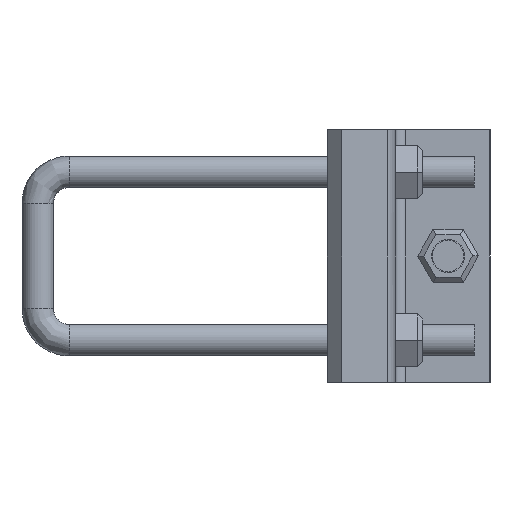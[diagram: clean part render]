
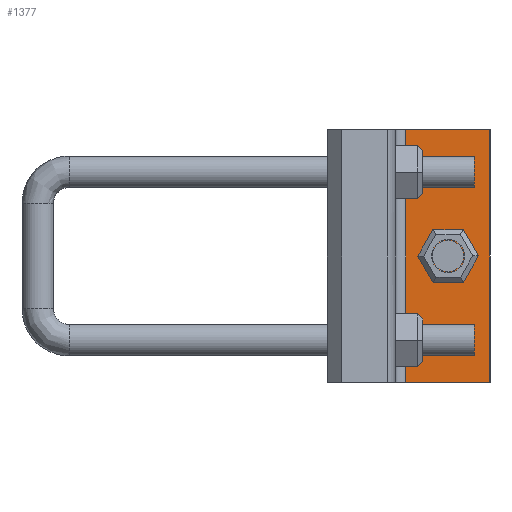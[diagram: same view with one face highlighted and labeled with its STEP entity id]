
A CAD part, left-side view. The second image highlights one B-rep face of the part: STEP entity #1377.
In plain terms, the highlighted planar face has unit normal (-1, 0, 0).
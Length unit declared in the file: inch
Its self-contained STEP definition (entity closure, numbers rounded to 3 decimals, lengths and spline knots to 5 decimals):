
#675=EDGE_CURVE('',#1808,#1809,#1810,.T.);
#923=EDGE_CURVE('',#2227,#1809,#2228,.T.);
#1199=EDGE_CURVE('',#2622,#2227,#2623,.T.);
#1377=ADVANCED_FACE('',(#2846,#2847),#2848,.T.);
#1607=EDGE_CURVE('',#1808,#2622,#3122,.T.);
#1808=VERTEX_POINT('',#3449);
#1809=VERTEX_POINT('',#3450);
#1810=LINE('',#3451,#3452);
#2227=VERTEX_POINT('',#4096);
#2228=LINE('',#4097,#4098);
#2622=VERTEX_POINT('',#4777);
#2623=LINE('',#4778,#4779);
#2846=FACE_OUTER_BOUND('',#5205,.T.);
#2847=FACE_BOUND('',#5206,.T.);
#2848=PLANE('',#5207);
#3122=LINE('',#5864,#5865);
#3449=CARTESIAN_POINT('',(-12.0,1.0,0.));
#3450=CARTESIAN_POINT('',(-12.0,1.0,3.0));
#3451=CARTESIAN_POINT('',(-12.0,1.0,0.));
#3452=VECTOR('',#6412,1.);
#4096=CARTESIAN_POINT('',(-12.0,0.0,3.0));
#4097=CARTESIAN_POINT('',(-12.0,1.0,3.0));
#4098=VECTOR('',#6845,1.);
#4777=CARTESIAN_POINT('',(-12.0,0.0,0.));
#4778=CARTESIAN_POINT('',(-12.0,0.0,0.));
#4779=VECTOR('',#7316,1.);
#5205=EDGE_LOOP('',(#7604,#7605,#7606,#7607));
#5206=EDGE_LOOP('',(#7608,#7609));
#5207=AXIS2_PLACEMENT_3D('',#7610,#7611,#7612);
#5864=CARTESIAN_POINT('',(-12.0,1.0,0.));
#5865=VECTOR('',#7959,1.);
#6412=DIRECTION('',(0.0,0.0,1.0));
#6845=DIRECTION('',(0.0,1.0,0.0));
#7316=DIRECTION('',(0.0,0.0,1.0));
#7604=ORIENTED_EDGE('',*,*,#923,.T.);
#7605=ORIENTED_EDGE('',*,*,#675,.F.);
#7606=ORIENTED_EDGE('',*,*,#1607,.T.);
#7607=ORIENTED_EDGE('',*,*,#1199,.T.);
#7608=ORIENTED_EDGE('',*,*,#8277,.F.);
#7609=ORIENTED_EDGE('',*,*,#8297,.F.);
#7610=CARTESIAN_POINT('',(-12.0,0.5,0.));
#7611=DIRECTION('',(-1.0,0.0,0.0));
#7612=DIRECTION('',(0.0,-1.0,0.0));
#7959=DIRECTION('',(0.0,-1.0,0.0));
#8277=EDGE_CURVE('',#8560,#8556,#8562,.T.);
#8297=EDGE_CURVE('',#8556,#8560,#8582,.T.);
#8556=VERTEX_POINT('',#8868);
#8560=VERTEX_POINT('',#8873);
#8562=CIRCLE('',#8876,0.1875);
#8582=CIRCLE('',#8896,0.1875);
#8868=CARTESIAN_POINT('',(-12.0,0.68737,1.5));
#8873=CARTESIAN_POINT('',(-12.0,0.31237,1.5));
#8876=AXIS2_PLACEMENT_3D('',#9080,#9081,#9082);
#8896=AXIS2_PLACEMENT_3D('',#9092,#9093,#9094);
#9080=CARTESIAN_POINT('',(-12.0,0.49987,1.5));
#9081=DIRECTION('',(-1.0,0.0,0.0));
#9082=DIRECTION('',(0.0,1.0,0.0));
#9092=CARTESIAN_POINT('',(-12.0,0.49987,1.5));
#9093=DIRECTION('',(-1.0,0.0,0.0));
#9094=DIRECTION('',(0.0,1.0,0.0));
